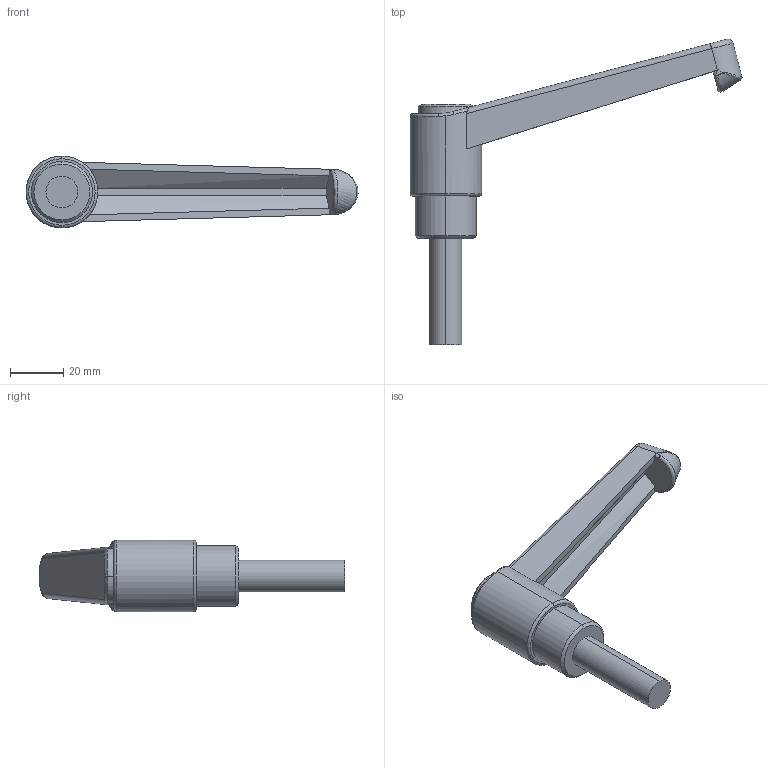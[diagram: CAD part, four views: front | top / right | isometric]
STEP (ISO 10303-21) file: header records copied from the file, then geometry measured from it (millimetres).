
FILE_DESCRIPTION (( 'STEP AP203' ), '1' );
FILE_NAME ('AS-406-108-M12.STEP', '2015-11-23T07:13:34', ( '' ), ( '' ), 'SwSTEP 2.0', 'SolidWorks 2014', '' );
FILE_SCHEMA (( 'CONFIG_CONTROL_DESIGN' ));
Length unit declared in the file: millimetre
Products named in the file (1): AS-406-108-M12
Bounding box: 124.9 x 115.05 x 27 mm (x, y, z)
Volume: 50807.4 mm3; surface area: 13954 mm2
Topology: 1 solids, 1 shells, 57 faces, 135 edges, 83 vertices
Faces by surface type: plane 17, cylinder 16, bspline 13, torus 4, cone 4, sphere 3
Entity records: 2404 total; most frequent: CARTESIAN_POINT 1129, ORIENTED_EDGE 270, DIRECTION 227, EDGE_CURVE 135, AXIS2_PLACEMENT_3D 95, VERTEX_POINT 83, EDGE_LOOP 60, ADVANCED_FACE 57
